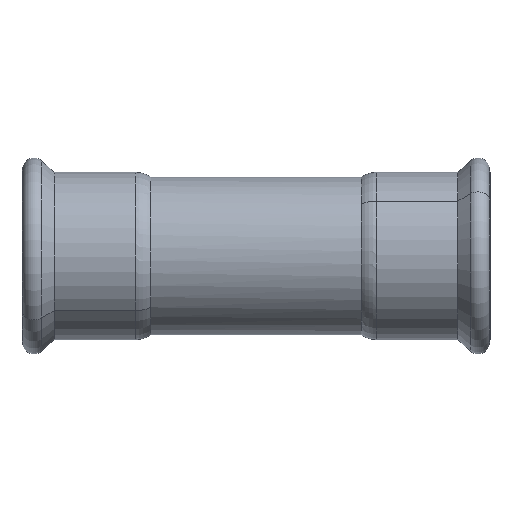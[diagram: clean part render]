
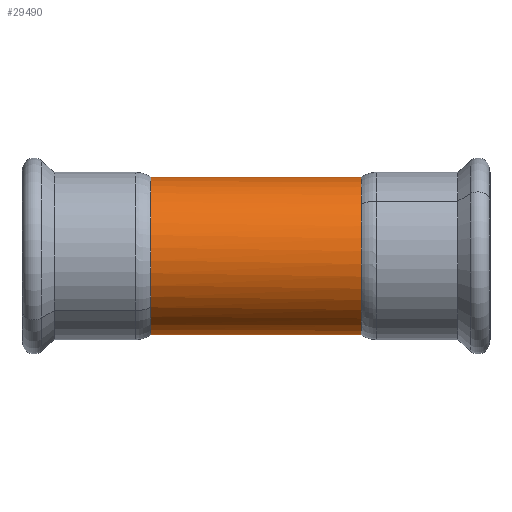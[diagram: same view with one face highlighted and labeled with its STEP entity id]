
A CAD part, top view. The second image highlights one B-rep face of the part: STEP entity #29490.
In plain terms, the highlighted cylindrical face has radius 33.35 mm (diameter 66.7 mm), a partial arc.
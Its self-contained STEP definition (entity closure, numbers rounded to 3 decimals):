
#170=CARTESIAN_POINT('',(-85.6,0.,0.));
#180=DIRECTION('',(-1.,0.,0.));
#190=DIRECTION('',(0.,0.654,
-0.757));
#200=AXIS2_PLACEMENT_3D('',#170,#180,#190);
#210=CIRCLE('',#200,33.35);
#220=CARTESIAN_POINT('',(-85.6,33.35,0.));
#230=VERTEX_POINT('',#220);
#260=CARTESIAN_POINT('',(-85.6,-21.804,25.235));
#270=VERTEX_POINT('',#260);
#280=EDGE_CURVE('',#270,#230,#210,.T.);
#17530=CARTESIAN_POINT('',(3.4,0.,0.));
#17540=DIRECTION('',(1.,0.,0.));
#17550=DIRECTION('',(0.,-0.654,
-0.757));
#17560=AXIS2_PLACEMENT_3D('',#17530,#17540,#17550);
#17570=CIRCLE('',#17560,33.35);
#17580=CARTESIAN_POINT('',(3.4,-33.35,0.)
);
#17590=VERTEX_POINT('',#17580);
#17620=CARTESIAN_POINT('',(3.4,21.804,
25.235));
#17630=VERTEX_POINT('',#17620);
#17640=EDGE_CURVE('',#17630,#17590,#17570,.T.);
#28880=CARTESIAN_POINT('',(-85.6,-33.35,0.));
#28890=VERTEX_POINT('',#28880);
#28900=EDGE_CURVE('',#28890,#270,#210,.T.);
#29170=CARTESIAN_POINT('',(3.4,33.35,0.));
#29180=VERTEX_POINT('',#29170);
#29190=EDGE_CURVE('',#29180,#17630,#17570,.T.);
#29260=CARTESIAN_POINT('',(5.,0.,0.));
#29270=DIRECTION('',(1.,0.,0.));
#29280=DIRECTION('',(0.,1.,0.));
#29290=AXIS2_PLACEMENT_3D('',#29260,#29270,#29280);
#29300=CYLINDRICAL_SURFACE('',#29290,33.35);
#29310=CARTESIAN_POINT('',(5.,33.35,0.));
#29320=DIRECTION('',(1.,0.,0.));
#29330=VECTOR('',#29320,1.);
#29340=LINE('',#29310,#29330);
#29350=EDGE_CURVE('',#230,#29180,#29340,.T.);
#29360=ORIENTED_EDGE('',*,*,#29350,.F.);
#29370=ORIENTED_EDGE('',*,*,#29190,.F.);
#29380=ORIENTED_EDGE('',*,*,#17640,.F.);
#29390=CARTESIAN_POINT('',(5.,-33.35,0.));
#29400=DIRECTION('',(1.,0.,0.));
#29410=VECTOR('',#29400,1.);
#29420=LINE('',#29390,#29410);
#29430=EDGE_CURVE('',#28890,#17590,#29420,.T.);
#29440=ORIENTED_EDGE('',*,*,#29430,.T.);
#29450=ORIENTED_EDGE('',*,*,#28900,.F.);
#29460=ORIENTED_EDGE('',*,*,#280,.F.);
#29470=EDGE_LOOP('',(#29460,#29450,#29440,#29380,#29370,#29360));
#29480=FACE_OUTER_BOUND('',#29470,.T.);
#29490=ADVANCED_FACE('',(#29480),#29300,.T.);
